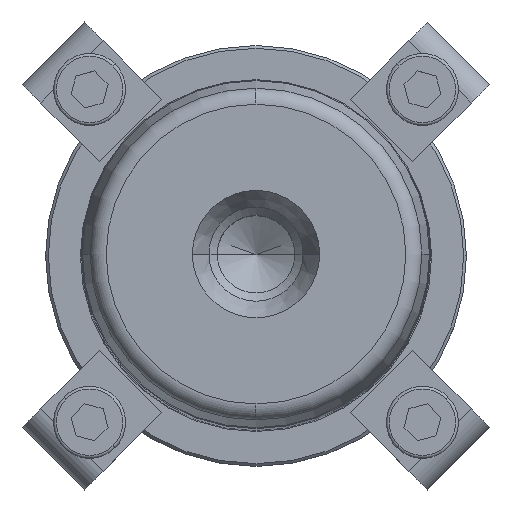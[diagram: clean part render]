
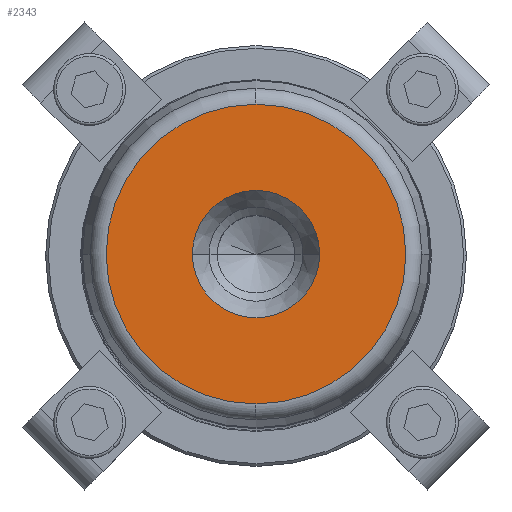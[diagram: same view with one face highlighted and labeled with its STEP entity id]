
A CAD part, top view. The second image highlights one B-rep face of the part: STEP entity #2343.
In plain terms, the highlighted planar face has unit normal (0, 0, 1).
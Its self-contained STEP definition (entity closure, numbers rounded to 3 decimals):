
#431=CARTESIAN_POINT('',(11.5,0.,200.0));
#432=VERTEX_POINT('',#431);
#439=CARTESIAN_POINT('',(-11.5,0.,200.0));
#440=VERTEX_POINT('',#439);
#441=CARTESIAN_POINT('',(0.0,0.,200.0));
#442=DIRECTION('',(0.0,0.0,1.0));
#443=DIRECTION('',(1.0,0.0,0.0));
#444=AXIS2_PLACEMENT_3D('',#441,#442,#443);
#445=CIRCLE('',#444,11.5);
#446=EDGE_CURVE('',#432,#440,#445,.T.);
#463=CARTESIAN_POINT('',(0.0,-27.054,200.0));
#464=VERTEX_POINT('',#463);
#474=CARTESIAN_POINT('',(0.,27.054,200.0));
#475=VERTEX_POINT('',#474);
#476=CARTESIAN_POINT('',(0.0,0.,200.0));
#477=DIRECTION('',(0.0,0.0,1.0));
#478=DIRECTION('',(1.0,0.0,0.0));
#479=AXIS2_PLACEMENT_3D('',#476,#477,#478);
#480=CIRCLE('',#479,27.054);
#481=EDGE_CURVE('',#475,#464,#480,.T.);
#2304=CARTESIAN_POINT('',(27.054,0.,200.0));
#2305=VERTEX_POINT('',#2304);
#2306=CARTESIAN_POINT('',(0.0,0.,200.0));
#2307=DIRECTION('',(0.0,0.0,1.0));
#2308=DIRECTION('',(1.0,0.0,0.0));
#2309=AXIS2_PLACEMENT_3D('',#2306,#2307,#2308);
#2310=CIRCLE('',#2309,27.054);
#2311=EDGE_CURVE('',#2305,#475,#2310,.T.);
#2313=CARTESIAN_POINT('',(0.0,0.,200.0));
#2314=DIRECTION('',(0.0,0.0,1.0));
#2315=DIRECTION('',(1.0,0.0,0.0));
#2316=AXIS2_PLACEMENT_3D('',#2313,#2314,#2315);
#2317=CIRCLE('',#2316,27.054);
#2318=EDGE_CURVE('',#464,#2305,#2317,.T.);
#2323=CARTESIAN_POINT('',(19.277,0.,200.0));
#2324=DIRECTION('',(0.0,0.0,1.0));
#2325=DIRECTION('',(0.0,-1.0,0.0));
#2326=AXIS2_PLACEMENT_3D('',#2323,#2324,#2325);
#2327=PLANE('',#2326);
#2328=ORIENTED_EDGE('',*,*,#2311,.T.);
#2329=ORIENTED_EDGE('',*,*,#481,.T.);
#2330=ORIENTED_EDGE('',*,*,#2318,.T.);
#2331=EDGE_LOOP('',(#2328,#2329,#2330));
#2332=FACE_OUTER_BOUND('',#2331,.T.);
#2333=ORIENTED_EDGE('',*,*,#446,.F.);
#2334=CARTESIAN_POINT('',(0.0,0.,200.0));
#2335=DIRECTION('',(0.0,0.0,1.0));
#2336=DIRECTION('',(1.0,0.0,0.0));
#2337=AXIS2_PLACEMENT_3D('',#2334,#2335,#2336);
#2338=CIRCLE('',#2337,11.5);
#2339=EDGE_CURVE('',#440,#432,#2338,.T.);
#2340=ORIENTED_EDGE('',*,*,#2339,.F.);
#2341=EDGE_LOOP('',(#2333,#2340));
#2342=FACE_BOUND('',#2341,.T.);
#2343=ADVANCED_FACE('',(#2332,#2342),#2327,.T.);
